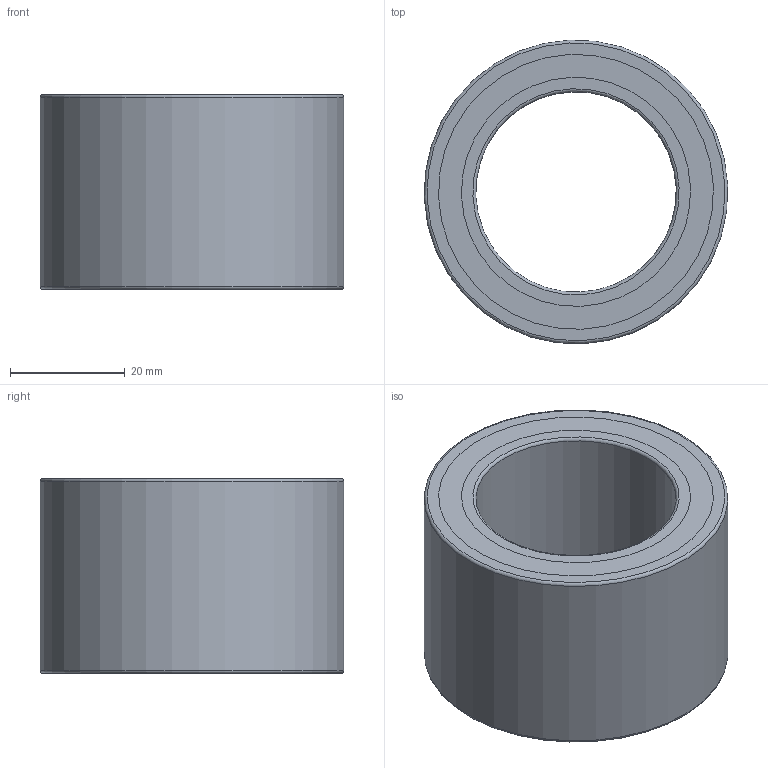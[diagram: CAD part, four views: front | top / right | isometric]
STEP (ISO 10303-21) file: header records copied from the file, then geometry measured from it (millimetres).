
FILE_DESCRIPTION(/* description */ (''),/* implementation_level */ '2;1');
FILE_NAME(/* name */ '306524 FPD 448 M.stp',/* time_stamp */ '2016-11-17T10:40:45+01:00',/* author */ (''),/* organization */ (''),/* preprocessor_version */ 'ST-DEVELOPER v15',/* originating_system */ 'SIEMENS PLM Software NX 8.5',/* authorisation */ '');
FILE_SCHEMA (('CONFIG_CONTROL_DESIGN'));
Length unit declared in the file: millimetre
Products named in the file (3): ATE0000080_01; ATE0000078_01; ATE0000090_01
Assembly tree (2 placements, depth 2):
  ATE0000090_01
    ATE0000078_01
    ATE0000080_01
Bounding box: 52.95 x 52.95 x 34 mm (x, y, z)
Volume: 35207.1 mm3; surface area: 31611.2 mm2
Topology: 5 solids, 5 shells, 76 faces, 162 edges, 106 vertices
Faces by surface type: plane 46, cylinder 24, torus 6
Full cylindrical faces by diameter (mm): 35 x1, 40 x5, 44 x1, 46 x1, 47 x2, 48 x5, 53 x1
Entity records: 2212 total; most frequent: DIRECTION 358, CARTESIAN_POINT 311, ORIENTED_EDGE 264, AXIS2_PLACEMENT_3D 147, EDGE_CURVE 132, EDGE_LOOP 120, VERTEX_POINT 100, FACE_BOUND 80
